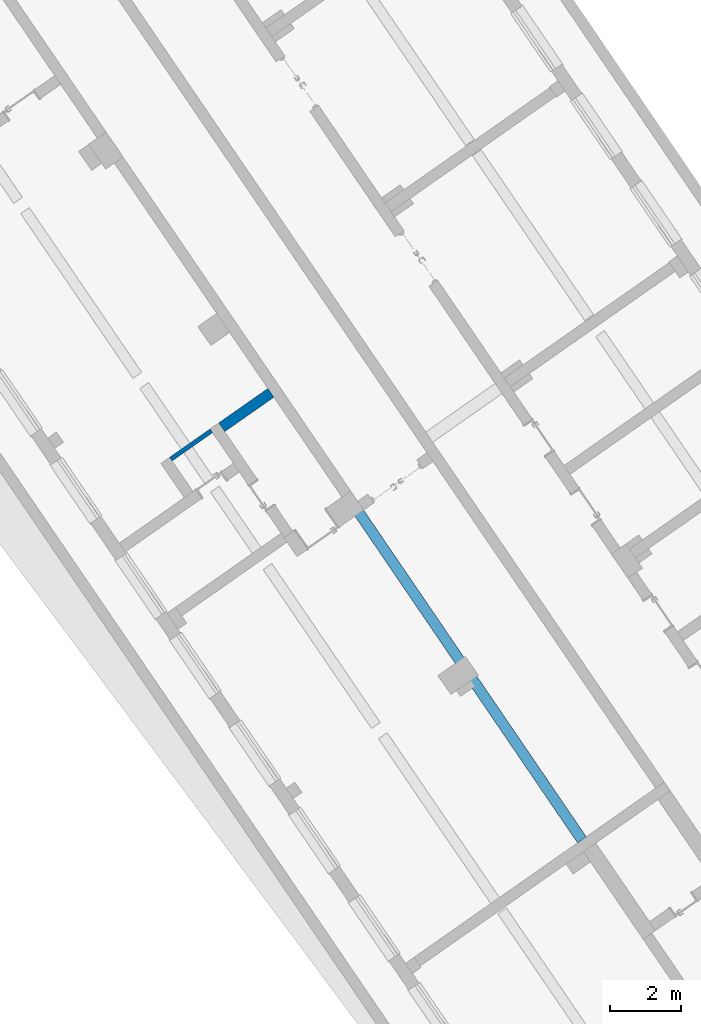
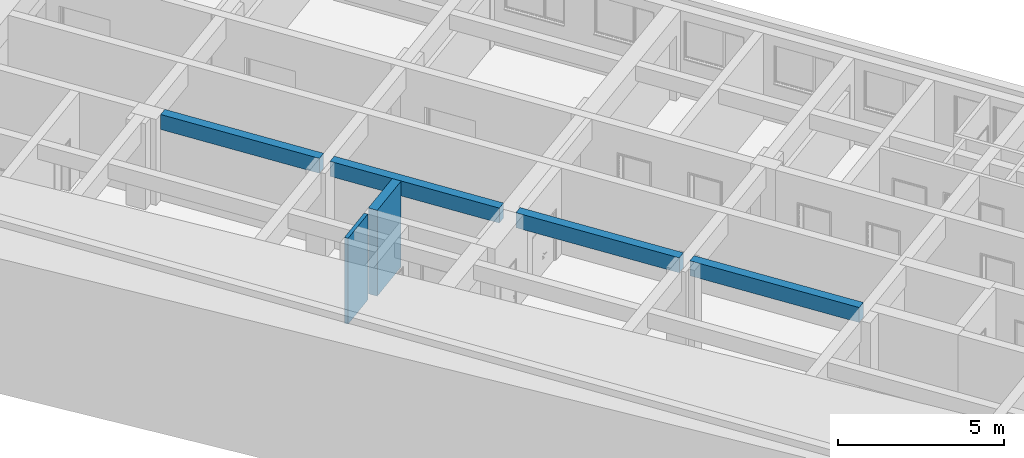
# One storey, part 24 of 112: 3 walls.
"""IFC2X3 building model written with IfcOpenShell, lengths in millimetres."""

from ifc_helpers import new_model, entity, si_unit, converted_unit, derived_unit, direction, frame, origin, place, context, subcontext, project, spatial, polyline, outline, extrude, material, layer, layer_set, layer_usage, type_object, element, save


model = new_model("IFC2X3")

# Units and contexts
model_context = context("Model", 3, precision=0.01, world=origin(), true_north=direction((6.123031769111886e-17, 1.0)))
body_context = subcontext(model_context, "Body", "Model", "MODEL_VIEW")
ifc_project = project(units=[si_unit("LENGTHUNIT", "METRE", prefix="MILLI"), si_unit("AREAUNIT", "SQUARE_METRE"), si_unit("VOLUMEUNIT", "CUBIC_METRE"), converted_unit("PLANEANGLEUNIT", "DEGREE", entity("IfcRatioMeasure", 0.017453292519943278), si_unit("PLANEANGLEUNIT", "RADIAN"), dimensions=[0, 0, 0, 0, 0, 0, 0]), si_unit("MASSUNIT", "GRAM", prefix="KILO"), derived_unit("MASSDENSITYUNIT", [(si_unit("MASSUNIT", "GRAM", prefix="KILO"), 1), (si_unit("LENGTHUNIT", "METRE"), -3)]), derived_unit("MOMENTOFINERTIAUNIT", [(si_unit("LENGTHUNIT", "METRE"), 4)]), si_unit("TIMEUNIT", "SECOND"), si_unit("FREQUENCYUNIT", "HERTZ"), si_unit("THERMODYNAMICTEMPERATUREUNIT", "DEGREE_CELSIUS"), derived_unit("THERMALTRANSMITTANCEUNIT", [(si_unit("MASSUNIT", "GRAM", prefix="KILO"), 1), (si_unit("THERMODYNAMICTEMPERATUREUNIT", "KELVIN"), -1), (si_unit("TIMEUNIT", "SECOND"), -3)]), derived_unit("THERMALCONDUCTANCEUNIT", [(si_unit("MASSUNIT", "GRAM", prefix="KILO"), 1), (si_unit("LENGTHUNIT", "METRE"), 1), (si_unit("THERMODYNAMICTEMPERATUREUNIT", "KELVIN"), -1), (si_unit("TIMEUNIT", "SECOND"), -3)]), derived_unit("VOLUMETRICFLOWRATEUNIT", [(si_unit("LENGTHUNIT", "METRE"), 3), (si_unit("TIMEUNIT", "SECOND"), -1)]), derived_unit("MASSFLOWRATEUNIT", [(si_unit("MASSUNIT", "GRAM", prefix="KILO"), 1), (si_unit("TIMEUNIT", "SECOND"), -1)]), derived_unit("ROTATIONALFREQUENCYUNIT", [(si_unit("TIMEUNIT", "SECOND"), -1)]), si_unit("ELECTRICCURRENTUNIT", "AMPERE"), si_unit("ELECTRICVOLTAGEUNIT", "VOLT"), si_unit("POWERUNIT", "WATT"), converted_unit("FORCEUNIT", "KIP", entity("IfcRatioMeasure", 2.088543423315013e-05), si_unit("FORCEUNIT", "NEWTON"), dimensions=[1, 1, -2, 0, 0, 0, 0]), si_unit("ILLUMINANCEUNIT", "LUX"), si_unit("LUMINOUSFLUXUNIT", "LUMEN"), si_unit("LUMINOUSINTENSITYUNIT", "CANDELA"), derived_unit("USERDEFINED", [(si_unit("MASSUNIT", "GRAM", prefix="KILO"), -1), (si_unit("LENGTHUNIT", "METRE"), -2), (si_unit("TIMEUNIT", "SECOND"), 3), (si_unit("LUMINOUSFLUXUNIT", "LUMEN"), 1)]), derived_unit("USERDEFINED", [(si_unit("MASSUNIT", "GRAM", prefix="KILO"), 1), (si_unit("LENGTHUNIT", "METRE"), 3), (si_unit("TIMEUNIT", "SECOND"), -3), (si_unit("ELECTRICCURRENTUNIT", "AMPERE"), -2)]), derived_unit("USERDEFINED", [(si_unit("LENGTHUNIT", "METRE"), 2), (si_unit("TIMEUNIT", "SECOND"), -2)]), derived_unit("SOUNDPOWERUNIT", [(si_unit("MASSUNIT", "GRAM", prefix="KILO"), 1), (si_unit("LENGTHUNIT", "METRE"), 2), (si_unit("TIMEUNIT", "SECOND"), -3)]), derived_unit("SOUNDPRESSUREUNIT", [(si_unit("MASSUNIT", "GRAM", prefix="KILO"), 1), (si_unit("LENGTHUNIT", "METRE"), -1), (si_unit("TIMEUNIT", "SECOND"), -2)]), derived_unit("LINEARVELOCITYUNIT", [(si_unit("LENGTHUNIT", "METRE"), 1), (si_unit("TIMEUNIT", "SECOND"), -1)]), si_unit("PRESSUREUNIT", "PASCAL"), derived_unit("USERDEFINED", [(si_unit("LENGTHUNIT", "METRE"), -2), (si_unit("MASSUNIT", "GRAM", prefix="KILO"), 1), (si_unit("TIMEUNIT", "SECOND"), -2)]), derived_unit("LINEARFORCEUNIT", [(si_unit("MASSUNIT", "GRAM", prefix="KILO"), 1), (si_unit("LENGTHUNIT", "METRE"), 1), (si_unit("TIMEUNIT", "SECOND"), -2), (si_unit("LENGTHUNIT", "METRE"), -1)]), derived_unit("PLANARFORCEUNIT", [(si_unit("MASSUNIT", "GRAM", prefix="KILO"), 1), (si_unit("LENGTHUNIT", "METRE"), 1), (si_unit("TIMEUNIT", "SECOND"), -2), (si_unit("LENGTHUNIT", "METRE"), -2)]), derived_unit("SPECIFICHEATCAPACITYUNIT", [(si_unit("LENGTHUNIT", "METRE"), 2), (si_unit("TIMEUNIT", "SECOND"), -2), (si_unit("THERMODYNAMICTEMPERATUREUNIT", "KELVIN"), -1)]), derived_unit("VAPORPERMEABILITYUNIT", [(si_unit("TIMEUNIT", "SECOND"), 1), (si_unit("LENGTHUNIT", "METRE"), -1)]), derived_unit("DYNAMICVISCOSITYUNIT", [(si_unit("MASSUNIT", "GRAM", prefix="KILO"), 1), (si_unit("LENGTHUNIT", "METRE"), -1), (si_unit("TIMEUNIT", "SECOND"), -1)]), derived_unit("THERMALEXPANSIONCOEFFICIENTUNIT", [(si_unit("THERMODYNAMICTEMPERATUREUNIT", "KELVIN"), -1)])], contexts=[model_context])

# Site, building, storey
site_placement = place(None, frame((0.0, 0.0, 0.0), z_axis=(0.0, 0.0, 1.0), x_axis=(0.8191520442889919, 0.5735764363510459, 0.0)))
site = spatial("IfcSite", under=ifc_project, at=site_placement, Name="Default", CompositionType="ELEMENT")
building_placement = place(site_placement, origin())
building = spatial("IfcBuilding", under=site, at=building_placement, CompositionType="ELEMENT")
storey_placement = place(building_placement, frame((0.0, 0.0, -3600.0)))
storey = spatial("IfcBuildingStorey", under=building, at=storey_placement, Name="0.UG -3.60", CompositionType="ELEMENT", Elevation=-3600.0000000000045)

# Walls
ifc_material = material(Name="Analytical Wall Surface_CJC")
ifc_layer_1 = layer(ifc_material, 300.0)
ifc_layer_set_1 = layer_set([ifc_layer_1], Name="Basic Wall:Wand_Innen_30")
ifc_layer_usage_1 = layer_usage(ifc_layer_set_1, "AXIS2", "NEGATIVE", 150.0)
wall_type_1 = type_object("IfcWallType", Name="Basic Wall:Wand_Innen_30", PredefinedType="STANDARD", material=ifc_layer_set_1)
wall_1_placement = place(storey_placement, frame((-218839.72039960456, 88996.35891435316, 300.0)))
element("IfcWallStandardCase", 1, at=wall_1_placement, inside=storey, type_object=wall_type_1, material=ifc_layer_usage_1, Name="Basic Wall:Wand_Innen_30", ObjectType="Basic Wall:Wand_Innen_30", context=body_context, shape_type="SweptSolid", body=[
    extrude(outline(polyline([(1700.1377527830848, -150.0), (1703.9569385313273, 150.0), (3.8191857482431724, 150.0), (0.0, -150.0), (1700.1377527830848, -150.0)])), origin(), (0.0, 0.0, 1.0), 3150.0),
])
wall_2_placement = place(storey_placement, frame((-217184.05500817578, 73569.44947620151, 2900.0), z_axis=(0.0, 0.0, 1.0), x_axis=(0.012729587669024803, 0.999918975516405, 0.0)))
element("IfcWall", 2, at=wall_2_placement, inside=storey, type_object=wall_type_1, Name="Basic Wall:Wand_Innen_30", ObjectType="Basic Wall:Wand_Innen_30", context=body_context, shape_type="SweptSolid", body=[
    extrude(outline(polyline([(-3715.0582391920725, -150.0), (1785.3874315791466, -150.0), (1935.3995862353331, -150.0), (1931.5804004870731, 150.0), (1781.5682458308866, 150.0), (-3718.877424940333, 150.0), (-3715.0582391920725, -150.0)])), frame((3718.877424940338, 0.0, 0.0)), (0.0, 0.0, 1.0), 549.9999999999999),
    extrude(outline(polyline([(-2649.0512808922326, -150.0), (2650.9608737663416, -150.0), (2647.1416880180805, 150.0), (-2649.051280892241, 150.0), (-2649.0512808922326, -150.0)])), frame((20652.41943265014, 0.0, 0.0), z_axis=(0.0, 0.0, 1.0), x_axis=(-1.0, 0.0, 0.0)), (0.0, 0.0, 1.0), 550.0),
    extrude(outline(polyline([(-2823.319319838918, -150.0), (2827.138505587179, -150.0), (2823.3193198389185, 150.0), (-2827.1385055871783, 150.0), (-2823.319319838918, -150.0)])), frame((14828.110878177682, 0.0, 0.0), z_axis=(0.0, 0.0, 1.0), x_axis=(-1.0, 0.0, 0.0)), (0.0, 0.0, 1.0), 550.0),
    extrude(outline(polyline([(-2748.313242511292, -150.0), (-2498.292984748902, -150.0), (2552.1162220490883, -150.0), (2702.1283767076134, -150.0), (2698.3091909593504, 150.0), (2548.297036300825, 150.0), (-2502.112170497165, 150.0), (-2752.132428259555, 150.0), (-2748.313242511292, -150.0)])), frame((8702.614563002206, 0.0, 0.0), z_axis=(0.0, 0.0, 1.0), x_axis=(-1.0, 0.0, 0.0)), (0.0, 0.0, 1.0), 550.0),
])
ifc_layer_2 = layer(ifc_material, 125.00000000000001)
ifc_layer_set_2 = layer_set([ifc_layer_2], Name="Basic Wall:Wand_Innen_12.5")
ifc_layer_usage_2 = layer_usage(ifc_layer_set_2, "AXIS2", "NEGATIVE", 62.50000000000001)
wall_type_2 = type_object("IfcWallType", Name="Basic Wall:Wand_Innen_12.5", PredefinedType="STANDARD", material=ifc_layer_set_2)
wall_3_placement = place(storey_placement, frame((-220537.63029403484, 89083.8589143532, 300.0)))
element("IfcWallStandardCase", 3, at=wall_3_placement, inside=storey, type_object=wall_type_2, material=ifc_layer_usage_2, Name="Basic Wall:Wand_Innen_12.5", ObjectType="Basic Wall:Wand_Innen_12.5", context=body_context, shape_type="SweptSolid", body=[
    extrude(outline(polyline([(1400.1134434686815, -62.500000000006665), (1401.7047708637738, 62.49999999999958), (1.5913273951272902, 62.499999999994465), (0.0, -62.50000000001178), (1400.1134434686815, -62.500000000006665)])), origin(), (0.0, 0.0, 1.0), 3150.0),
])

save(model, "model.ifc")
